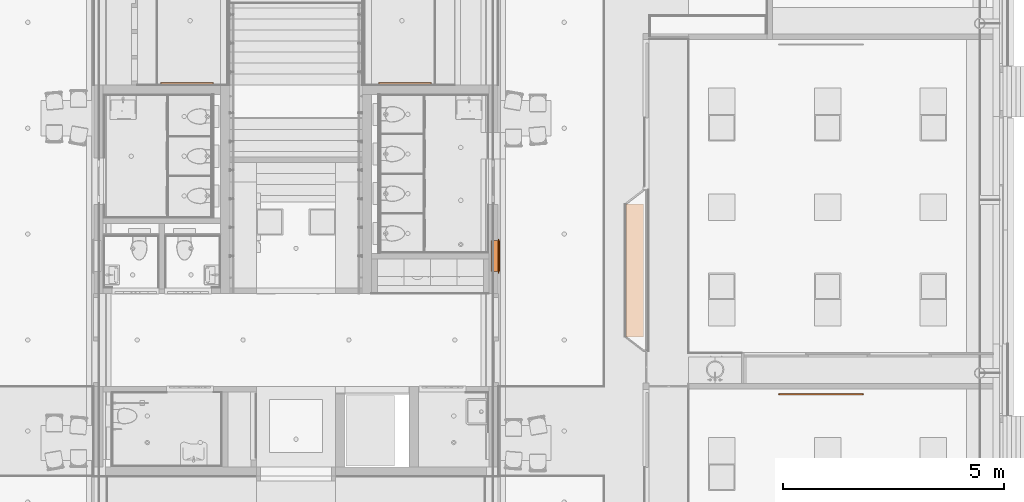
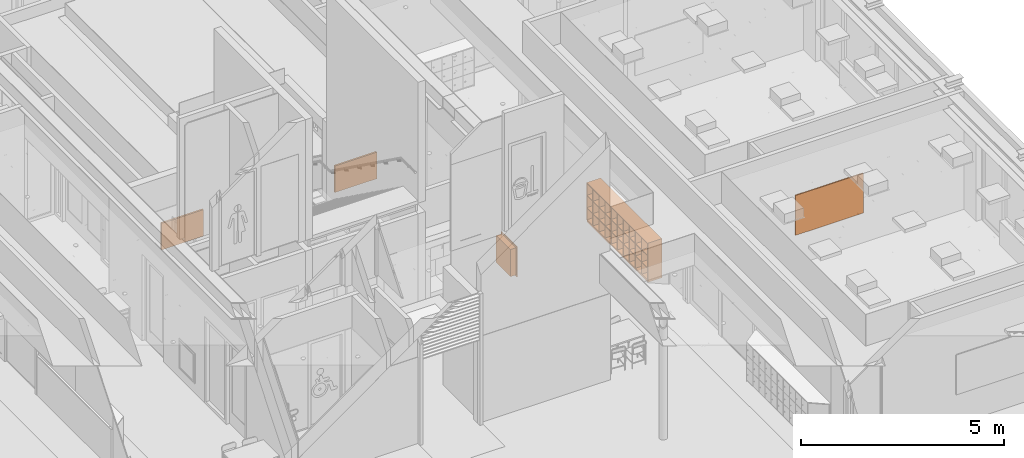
# One storey, part 334 of 347: 5 proxies.
"""IFC2X3 building model written with IfcOpenShell, lengths in millimetres."""

from ifc_helpers import new_model, entity, si_unit, converted_unit, derived_unit, money_unit, direction, frame, origin_with_axes, place, context, subcontext, project, spatial, open_shell, faceted_brep, surface_model, source, transform, mapped, type_object, type_shapes, element, save


model = new_model("IFC2X3")

# Units and contexts
model_context = context("Model", 3, precision=0.01, world=origin_with_axes(), true_north=direction((0.0, 1.0)))
plan_context = context("Plan", 3, precision=0.01, world=origin_with_axes(), true_north=direction((0.0, 1.0)))
body_context = subcontext(model_context, "Body", "Model", "MODEL_VIEW")
ifc_project = project(units=[si_unit("LENGTHUNIT", "METRE", prefix="MILLI"), si_unit("AREAUNIT", "SQUARE_METRE"), si_unit("VOLUMEUNIT", "CUBIC_METRE"), converted_unit("PLANEANGLEUNIT", "DEGREE", entity("IfcPlaneAngleMeasure", 0.0174532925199), si_unit("PLANEANGLEUNIT", "RADIAN"), dimensions=[0, 0, 0, 0, 0, 0, 0]), money_unit("EUR"), converted_unit("TIMEUNIT", "Year", entity("IfcTimeMeasure", 31556926.0), si_unit("TIMEUNIT", "SECOND"), dimensions=[0, 0, 1, 0, 0, 0, 0]), si_unit("MASSUNIT", "GRAM", prefix="KILO"), si_unit("THERMODYNAMICTEMPERATUREUNIT", "DEGREE_CELSIUS"), si_unit("LUMINOUSINTENSITYUNIT", "LUMEN"), si_unit("ENERGYUNIT", "JOULE", prefix="MEGA"), derived_unit("THERMALCONDUCTANCEUNIT", [(si_unit("POWERUNIT", "WATT"), 1), (si_unit("LENGTHUNIT", "METRE"), -1), (si_unit("THERMODYNAMICTEMPERATUREUNIT", "KELVIN"), -1)]), derived_unit("SPECIFICHEATCAPACITYUNIT", [(si_unit("ENERGYUNIT", "JOULE"), 1), (si_unit("MASSUNIT", "GRAM", prefix="KILO"), -1), (si_unit("THERMODYNAMICTEMPERATUREUNIT", "KELVIN"), -1)]), derived_unit("MASSDENSITYUNIT", [(si_unit("MASSUNIT", "GRAM", prefix="KILO"), 1), (si_unit("VOLUMEUNIT", "CUBIC_METRE"), -1)])], contexts=[model_context, plan_context])

# Site, building, storey
site_placement = place(None, origin_with_axes())
site = spatial("IfcSite", under=ifc_project, at=site_placement, Name="Site", CompositionType="ELEMENT")
building_placement = place(site_placement, origin_with_axes())
building = spatial("IfcBuilding", under=site, at=building_placement, Name="Naam gebouw", CompositionType="ELEMENT")
storey_placement = place(building_placement, origin_with_axes())
storey = spatial("IfcBuildingStorey", under=building, at=storey_placement, Name="begane grond", CompositionType="ELEMENT", Elevation=0.0)

# Proxies
building_element_proxy_type_1 = type_object("IfcBuildingElementProxyType", Name="Digitaal bord 25", PredefinedType="NOTDEFINED")
shared_shape_1 = source(origin_with_axes(), body_context, "Body", "SurfaceModel", [
    faceted_brep([(0.0, 0.0, 1000.0), (1930.0, 0.0, 1000.0), (1930.0, -30.0, 1000.0), (0.0, -30.0, 1000.0), (0.0, 0.0, 2185.0), (4.3933982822, 0.0, 2195.60660172), (15.0, 0.0, 2200.0), (1915.0, 0.0, 2200.0), (1925.60660172, 0.0, 2195.60660172), (1930.0, 0.0, 2185.0), (20.0, 0.0, 1025.0), (1910.0, 0.0, 1025.0), (1910.0, 0.0, 2180.0), (20.0, 0.0, 2180.0), (1930.0, -30.0, 2185.0), (1925.60660172, -30.0, 2195.60660172), (1915.0, -30.0, 2200.0), (15.0, -30.0, 2200.0), (4.3933982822, -30.0, 2195.60660172), (0.0, -30.0, 2185.0), (20.0, -30.0, 1025.0), (20.0, -30.0, 2180.0), (1910.0, -30.0, 2180.0), (1910.0, -30.0, 1025.0)], [[[0, 1, 2, 3]], [[0, 4, 5, 6, 7, 8, 9, 1], [10, 11, 12, 13]], [[1, 9, 14, 2]], [[3, 2, 14, 15, 16, 17, 18, 19], [20, 21, 22, 23]], [[4, 0, 3, 19]], [[5, 4, 19, 18]], [[6, 5, 18, 17]], [[7, 6, 17, 16]], [[8, 7, 16, 15]], [[9, 8, 15, 14]], [[11, 10, 20, 23]], [[12, 11, 23, 22]], [[13, 12, 22, 21]], [[10, 13, 21, 20]]]),
    faceted_brep([(20.0, 0.0, 1025.0), (1910.0, 0.0, 1025.0), (1910.0, -29.0, 1025.0), (20.0, -29.0, 1025.0), (20.0, 0.0, 2180.0), (1910.0, 0.0, 2180.0), (1910.0, -29.0, 2180.0), (20.0, -29.0, 2180.0)], [[[0, 1, 2, 3]], [[0, 4, 5, 1]], [[1, 5, 6, 2]], [[3, 2, 6, 7]], [[4, 0, 3, 7]], [[5, 4, 7, 6]]]),
    surface_model("IfcShellBasedSurfaceModel", [(20.0, -30.0, 1025.0), (1910.0, -30.0, 1025.0), (1910.0, -30.0, 2180.0), (20.0, -30.0, 2180.0)], [open_shell([[[0, 1, 2, 3]]])]),
])
proxy_1_placement = place(storey_placement, frame((51007.443853, 27812.5, 0.0), z_axis=(0.0, 0.0, 1.0), x_axis=(1.0, 0.0, 0.0)))
element("IfcBuildingElementProxy", 1, at=proxy_1_placement, inside=storey, type_object=building_element_proxy_type_1, Name="82_DiGi-bord", context=body_context, shape_type="MappedRepresentation", body=[
    mapped(shared_shape_1, transform((0.0, 0.0, 0.0))),
])
shared_shape_2 = source(origin_with_axes(), body_context, "Body", "Brep", [
    faceted_brep([(0.0, 0.0, 1000.0), (1200.0, 0.0, 1000.0), (1200.0, -50.0, 1000.0), (0.0, -50.0, 1000.0), (0.0, 0.0, 1785.0), (4.3933982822, 0.0, 1795.60660172), (15.0, 0.0, 1800.0), (1185.0, 0.0, 1800.0), (1195.60660172, 0.0, 1795.60660172), (1200.0, 0.0, 1785.0), (20.0, 0.0, 1025.0), (1180.0, 0.0, 1025.0), (1180.0, 0.0, 1780.0), (20.0, 0.0, 1780.0), (1200.0, -50.0, 1785.0), (1195.60660172, -50.0, 1795.60660172), (1185.0, -50.0, 1800.0), (15.0, -50.0, 1800.0), (4.3933982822, -50.0, 1795.60660172), (0.0, -50.0, 1785.0), (20.0, -50.0, 1025.0), (20.0, -50.0, 1780.0), (1180.0, -50.0, 1780.0), (1180.0, -50.0, 1025.0)], [[[0, 1, 2, 3]], [[0, 4, 5, 6, 7, 8, 9, 1], [10, 11, 12, 13]], [[1, 9, 14, 2]], [[3, 2, 14, 15, 16, 17, 18, 19], [20, 21, 22, 23]], [[4, 0, 3, 19]], [[5, 4, 19, 18]], [[6, 5, 18, 17]], [[7, 6, 17, 16]], [[8, 7, 16, 15]], [[9, 8, 15, 14]], [[11, 10, 20, 23]], [[12, 11, 23, 22]], [[13, 12, 22, 21]], [[10, 13, 21, 20]]]),
    faceted_brep([(20.0, 0.0, 1025.0), (1180.0, 0.0, 1025.0), (1180.0, -49.0, 1025.0), (20.0, -49.0, 1025.0), (20.0, 0.0, 1780.0), (1180.0, 0.0, 1780.0), (1180.0, -49.0, 1780.0), (20.0, -49.0, 1780.0)], [[[0, 1, 2, 3]], [[0, 4, 5, 1]], [[1, 5, 6, 2]], [[3, 2, 6, 7]], [[4, 0, 3, 7]], [[5, 4, 7, 6]]]),
])
type_shapes(building_element_proxy_type_1, [shared_shape_1, shared_shape_2])
for number, where, z_axis, x_axis, name in (
    (2, (38205.0, 34812.0, 200.0), (0.0, 0.0, 1.0), (-1.0, 0.0, 0.0), "82_DiGi-bord"),
    (3, (43145.0, 34812.0, 200.0), (0.0, 0.0, 1.0), (-1.0, 0.0, 0.0), "82_DiGi-bord"),
):
    element("IfcBuildingElementProxy", number, at=place(storey_placement, frame(where, z_axis=z_axis, x_axis=x_axis)), inside=storey, type_object=building_element_proxy_type_1, Name=name, context=body_context, shape_type="MappedRepresentation", body=[
        mapped(shared_shape_2, transform((0.0, 0.0, 0.0))),
    ])
building_element_proxy_type_2 = type_object("IfcBuildingElementProxyType", Name="Kast modulair 25", PredefinedType="NOTDEFINED")
shared_shape_3 = source(origin_with_axes(), body_context, "Body", "Brep", [
    faceted_brep([(0.0, 10.0, 0.0), (0.0, 10.0, 50.0), (-3018.0, 10.0, 50.0), (-3018.0, 10.0, 0.0), (0.0, 400.0, 0.0), (0.0, 400.0, 50.0), (-3018.0, 400.0, 50.0), (-3018.0, 400.0, 0.0)], [[[0, 1, 2, 3]], [[4, 5, 1, 0]], [[1, 5, 6, 2]], [[3, 2, 6, 7]], [[0, 3, 7, 4]], [[7, 6, 5, 4]]]),
    faceted_brep([(-18.0, 400.0, 68.0), (-18.0, 382.0, 68.0), (-3000.0, 382.0, 68.0), (-3000.0, 400.0, 68.0), (-18.0, 400.0, 1160.0), (-18.0, 382.0, 1160.0), (-3000.0, 382.0, 1160.0), (-3000.0, 382.0, 790.0), (-3000.0, 382.0, 420.0), (-3000.0, 400.0, 420.0), (-3000.0, 400.0, 790.0), (-3000.0, 400.0, 1160.0)], [[[0, 1, 2, 3]], [[4, 5, 1, 0]], [[1, 5, 6, 7, 8, 2]], [[3, 2, 8, 9]], [[0, 3, 9, 10, 11, 4]], [[11, 6, 5, 4]], [[10, 7, 6, 11]], [[9, 8, 7, 10]]]),
    faceted_brep([(-3018.0, 0.0, 50.0), (-3018.0, 400.0, 50.0), (0.0, 400.0, 50.0), (0.0, 0.0, 50.0), (-3018.0, 0.0, 68.0), (-3018.0, 400.0, 68.0), (0.0, 400.0, 68.0), (0.0, 0.0, 68.0)], [[[0, 1, 2, 3]], [[0, 4, 5, 1]], [[1, 5, 6, 2]], [[2, 6, 7, 3]], [[3, 7, 4, 0]], [[7, 6, 5, 4]]]),
    faceted_brep([(-18.0, 0.0, 68.0), (-18.0, 400.0, 68.0), (0.0, 400.0, 68.0), (0.0, 0.0, 68.0), (-18.0, 0.0, 420.0), (-18.0, 400.0, 420.0), (0.0, 400.0, 420.0), (0.0, 0.0, 420.0)], [[[0, 1, 2, 3]], [[0, 4, 5, 1]], [[1, 5, 6, 2]], [[2, 6, 7, 3]], [[3, 7, 4, 0]], [[7, 6, 5, 4]]]),
    faceted_brep([(-318.0, 0.0, 68.0), (-318.0, 382.0, 68.0), (-300.0, 382.0, 68.0), (-300.0, 0.0, 68.0), (-318.0, 0.0, 420.0), (-318.0, 382.0, 420.0), (-300.0, 382.0, 420.0), (-300.0, 0.0, 420.0)], [[[0, 1, 2, 3]], [[0, 4, 5, 1]], [[1, 5, 6, 2]], [[2, 6, 7, 3]], [[3, 7, 4, 0]], [[7, 6, 5, 4]]]),
    faceted_brep([(-618.0, 0.0, 68.0), (-618.0, 382.0, 68.0), (-600.0, 382.0, 68.0), (-600.0, 0.0, 68.0), (-618.0, 0.0, 420.0), (-618.0, 382.0, 420.0), (-600.0, 382.0, 420.0), (-600.0, 0.0, 420.0)], [[[0, 1, 2, 3]], [[0, 4, 5, 1]], [[1, 5, 6, 2]], [[2, 6, 7, 3]], [[3, 7, 4, 0]], [[7, 6, 5, 4]]]),
    faceted_brep([(-918.0, 0.0, 68.0), (-918.0, 382.0, 68.0), (-900.0, 382.0, 68.0), (-900.0, 0.0, 68.0), (-918.0, 0.0, 420.0), (-918.0, 382.0, 420.0), (-900.0, 382.0, 420.0), (-900.0, 0.0, 420.0)], [[[0, 1, 2, 3]], [[0, 4, 5, 1]], [[1, 5, 6, 2]], [[2, 6, 7, 3]], [[3, 7, 4, 0]], [[7, 6, 5, 4]]]),
    faceted_brep([(-1218.0, 0.0, 68.0), (-1218.0, 382.0, 68.0), (-1200.0, 382.0, 68.0), (-1200.0, 0.0, 68.0), (-1218.0, 0.0, 420.0), (-1218.0, 382.0, 420.0), (-1200.0, 382.0, 420.0), (-1200.0, 0.0, 420.0)], [[[0, 1, 2, 3]], [[0, 4, 5, 1]], [[1, 5, 6, 2]], [[2, 6, 7, 3]], [[3, 7, 4, 0]], [[7, 6, 5, 4]]]),
    faceted_brep([(-1518.0, 0.0, 68.0), (-1518.0, 382.0, 68.0), (-1500.0, 382.0, 68.0), (-1500.0, 0.0, 68.0), (-1518.0, 0.0, 420.0), (-1518.0, 382.0, 420.0), (-1500.0, 382.0, 420.0), (-1500.0, 0.0, 420.0)], [[[0, 1, 2, 3]], [[0, 4, 5, 1]], [[1, 5, 6, 2]], [[2, 6, 7, 3]], [[3, 7, 4, 0]], [[7, 6, 5, 4]]]),
    faceted_brep([(-1818.0, 0.0, 68.0), (-1818.0, 382.0, 68.0), (-1800.0, 382.0, 68.0), (-1800.0, 0.0, 68.0), (-1818.0, 0.0, 420.0), (-1818.0, 382.0, 420.0), (-1800.0, 382.0, 420.0), (-1800.0, 0.0, 420.0)], [[[0, 1, 2, 3]], [[0, 4, 5, 1]], [[1, 5, 6, 2]], [[2, 6, 7, 3]], [[3, 7, 4, 0]], [[7, 6, 5, 4]]]),
    faceted_brep([(-2118.0, 0.0, 68.0), (-2118.0, 382.0, 68.0), (-2100.0, 382.0, 68.0), (-2100.0, 0.0, 68.0), (-2118.0, 0.0, 420.0), (-2118.0, 382.0, 420.0), (-2100.0, 382.0, 420.0), (-2100.0, 0.0, 420.0)], [[[0, 1, 2, 3]], [[0, 4, 5, 1]], [[1, 5, 6, 2]], [[2, 6, 7, 3]], [[3, 7, 4, 0]], [[7, 6, 5, 4]]]),
    faceted_brep([(-2418.0, 0.0, 68.0), (-2418.0, 382.0, 68.0), (-2400.0, 382.0, 68.0), (-2400.0, 0.0, 68.0), (-2418.0, 0.0, 420.0), (-2418.0, 382.0, 420.0), (-2400.0, 382.0, 420.0), (-2400.0, 0.0, 420.0)], [[[0, 1, 2, 3]], [[0, 4, 5, 1]], [[1, 5, 6, 2]], [[2, 6, 7, 3]], [[3, 7, 4, 0]], [[7, 6, 5, 4]]]),
    faceted_brep([(-2718.0, 0.0, 68.0), (-2718.0, 382.0, 68.0), (-2700.0, 382.0, 68.0), (-2700.0, 0.0, 68.0), (-2718.0, 0.0, 420.0), (-2718.0, 382.0, 420.0), (-2700.0, 382.0, 420.0), (-2700.0, 0.0, 420.0)], [[[0, 1, 2, 3]], [[0, 4, 5, 1]], [[1, 5, 6, 2]], [[2, 6, 7, 3]], [[3, 7, 4, 0]], [[7, 6, 5, 4]]]),
    faceted_brep([(-3018.0, 0.0, 68.0), (-3018.0, 400.0, 68.0), (-3000.0, 400.0, 68.0), (-3000.0, 0.0, 68.0), (-3018.0, 0.0, 420.0), (-3018.0, 400.0, 420.0), (-3000.0, 400.0, 420.0), (-3000.0, 0.0, 420.0)], [[[0, 1, 2, 3]], [[0, 4, 5, 1]], [[1, 5, 6, 2]], [[2, 6, 7, 3]], [[3, 7, 4, 0]], [[7, 6, 5, 4]]]),
    faceted_brep([(-3000.0, 400.0, 420.0), (-3018.0, 400.0, 420.0), (-3018.0, 400.0, 438.0), (-3000.0, 400.0, 438.0), (-3000.0, 382.0, 420.0), (-18.0, 382.0, 420.0), (-18.0, 400.0, 420.0), (0.0, 400.0, 420.0), (0.0, 0.0, 420.0), (-3018.0, 0.0, 420.0), (-3018.0, 0.0, 438.0), (-18.0, 382.0, 438.0), (-3000.0, 382.0, 438.0), (0.0, 0.0, 438.0), (0.0, 400.0, 438.0), (-18.0, 400.0, 438.0)], [[[0, 1, 2, 3]], [[4, 5, 6, 7, 8, 9, 1, 0]], [[1, 9, 10, 2]], [[11, 12, 3, 2, 10, 13, 14, 15]], [[12, 4, 0, 3]], [[11, 5, 4, 12]], [[6, 5, 11, 15]], [[15, 14, 7, 6]], [[8, 7, 14, 13]], [[9, 8, 13, 10]]]),
    faceted_brep([(-3000.0, 400.0, 790.0), (-3018.0, 400.0, 790.0), (-3018.0, 400.0, 808.0), (-3000.0, 400.0, 808.0), (-3000.0, 382.0, 790.0), (-18.0, 382.0, 790.0), (-18.0, 400.0, 790.0), (0.0, 400.0, 790.0), (0.0, 0.0, 790.0), (-3018.0, 0.0, 790.0), (-3018.0, 0.0, 808.0), (-18.0, 382.0, 808.0), (-3000.0, 382.0, 808.0), (0.0, 0.0, 808.0), (0.0, 400.0, 808.0), (-18.0, 400.0, 808.0)], [[[0, 1, 2, 3]], [[4, 5, 6, 7, 8, 9, 1, 0]], [[1, 9, 10, 2]], [[11, 12, 3, 2, 10, 13, 14, 15]], [[12, 4, 0, 3]], [[11, 5, 4, 12]], [[6, 5, 11, 15]], [[15, 14, 7, 6]], [[8, 7, 14, 13]], [[9, 8, 13, 10]]]),
    faceted_brep([(-18.0, 0.0, 438.0), (-18.0, 400.0, 438.0), (0.0, 400.0, 438.0), (0.0, 0.0, 438.0), (-18.0, 0.0, 790.0), (-18.0, 400.0, 790.0), (0.0, 400.0, 790.0), (0.0, 0.0, 790.0)], [[[0, 1, 2, 3]], [[0, 4, 5, 1]], [[1, 5, 6, 2]], [[2, 6, 7, 3]], [[3, 7, 4, 0]], [[7, 6, 5, 4]]]),
    faceted_brep([(-318.0, 0.0, 438.0), (-318.0, 382.0, 438.0), (-300.0, 382.0, 438.0), (-300.0, 0.0, 438.0), (-318.0, 0.0, 790.0), (-318.0, 382.0, 790.0), (-300.0, 382.0, 790.0), (-300.0, 0.0, 790.0)], [[[0, 1, 2, 3]], [[0, 4, 5, 1]], [[1, 5, 6, 2]], [[2, 6, 7, 3]], [[3, 7, 4, 0]], [[7, 6, 5, 4]]]),
    faceted_brep([(-618.0, 0.0, 438.0), (-618.0, 382.0, 438.0), (-600.0, 382.0, 438.0), (-600.0, 0.0, 438.0), (-618.0, 0.0, 790.0), (-618.0, 382.0, 790.0), (-600.0, 382.0, 790.0), (-600.0, 0.0, 790.0)], [[[0, 1, 2, 3]], [[0, 4, 5, 1]], [[1, 5, 6, 2]], [[2, 6, 7, 3]], [[3, 7, 4, 0]], [[7, 6, 5, 4]]]),
    faceted_brep([(-918.0, 0.0, 438.0), (-918.0, 382.0, 438.0), (-900.0, 382.0, 438.0), (-900.0, 0.0, 438.0), (-918.0, 0.0, 790.0), (-918.0, 382.0, 790.0), (-900.0, 382.0, 790.0), (-900.0, 0.0, 790.0)], [[[0, 1, 2, 3]], [[0, 4, 5, 1]], [[1, 5, 6, 2]], [[2, 6, 7, 3]], [[3, 7, 4, 0]], [[7, 6, 5, 4]]]),
    faceted_brep([(-1218.0, 0.0, 438.0), (-1218.0, 382.0, 438.0), (-1200.0, 382.0, 438.0), (-1200.0, 0.0, 438.0), (-1218.0, 0.0, 790.0), (-1218.0, 382.0, 790.0), (-1200.0, 382.0, 790.0), (-1200.0, 0.0, 790.0)], [[[0, 1, 2, 3]], [[0, 4, 5, 1]], [[1, 5, 6, 2]], [[2, 6, 7, 3]], [[3, 7, 4, 0]], [[7, 6, 5, 4]]]),
    faceted_brep([(-1518.0, 0.0, 438.0), (-1518.0, 382.0, 438.0), (-1500.0, 382.0, 438.0), (-1500.0, 0.0, 438.0), (-1518.0, 0.0, 790.0), (-1518.0, 382.0, 790.0), (-1500.0, 382.0, 790.0), (-1500.0, 0.0, 790.0)], [[[0, 1, 2, 3]], [[0, 4, 5, 1]], [[1, 5, 6, 2]], [[2, 6, 7, 3]], [[3, 7, 4, 0]], [[7, 6, 5, 4]]]),
    faceted_brep([(-1818.0, 0.0, 438.0), (-1818.0, 382.0, 438.0), (-1800.0, 382.0, 438.0), (-1800.0, 0.0, 438.0), (-1818.0, 0.0, 790.0), (-1818.0, 382.0, 790.0), (-1800.0, 382.0, 790.0), (-1800.0, 0.0, 790.0)], [[[0, 1, 2, 3]], [[0, 4, 5, 1]], [[1, 5, 6, 2]], [[2, 6, 7, 3]], [[3, 7, 4, 0]], [[7, 6, 5, 4]]]),
    faceted_brep([(-2118.0, 0.0, 438.0), (-2118.0, 382.0, 438.0), (-2100.0, 382.0, 438.0), (-2100.0, 0.0, 438.0), (-2118.0, 0.0, 790.0), (-2118.0, 382.0, 790.0), (-2100.0, 382.0, 790.0), (-2100.0, 0.0, 790.0)], [[[0, 1, 2, 3]], [[0, 4, 5, 1]], [[1, 5, 6, 2]], [[2, 6, 7, 3]], [[3, 7, 4, 0]], [[7, 6, 5, 4]]]),
    faceted_brep([(-2418.0, 0.0, 438.0), (-2418.0, 382.0, 438.0), (-2400.0, 382.0, 438.0), (-2400.0, 0.0, 438.0), (-2418.0, 0.0, 790.0), (-2418.0, 382.0, 790.0), (-2400.0, 382.0, 790.0), (-2400.0, 0.0, 790.0)], [[[0, 1, 2, 3]], [[0, 4, 5, 1]], [[1, 5, 6, 2]], [[2, 6, 7, 3]], [[3, 7, 4, 0]], [[7, 6, 5, 4]]]),
    faceted_brep([(-2718.0, 0.0, 438.0), (-2718.0, 382.0, 438.0), (-2700.0, 382.0, 438.0), (-2700.0, 0.0, 438.0), (-2718.0, 0.0, 790.0), (-2718.0, 382.0, 790.0), (-2700.0, 382.0, 790.0), (-2700.0, 0.0, 790.0)], [[[0, 1, 2, 3]], [[0, 4, 5, 1]], [[1, 5, 6, 2]], [[2, 6, 7, 3]], [[3, 7, 4, 0]], [[7, 6, 5, 4]]]),
    faceted_brep([(-3018.0, 0.0, 438.0), (-3018.0, 400.0, 438.0), (-3000.0, 400.0, 438.0), (-3000.0, 0.0, 438.0), (-3018.0, 0.0, 790.0), (-3018.0, 400.0, 790.0), (-3000.0, 400.0, 790.0), (-3000.0, 0.0, 790.0)], [[[0, 1, 2, 3]], [[0, 4, 5, 1]], [[1, 5, 6, 2]], [[2, 6, 7, 3]], [[3, 7, 4, 0]], [[7, 6, 5, 4]]]),
    faceted_brep([(0.0, 0.0, 1160.0), (0.0, 0.0, 1178.0), (-3018.0, 0.0, 1178.0), (-3018.0, 0.0, 1160.0), (0.0, 400.0, 1160.0), (0.0, 400.0, 1178.0), (-3018.0, 400.0, 1178.0), (-3018.0, 400.0, 1160.0)], [[[0, 1, 2, 3]], [[4, 5, 1, 0]], [[1, 5, 6, 2]], [[3, 2, 6, 7]], [[0, 3, 7, 4]], [[7, 6, 5, 4]]]),
    faceted_brep([(-18.0, 0.0, 808.0), (-18.0, 400.0, 808.0), (0.0, 400.0, 808.0), (0.0, 0.0, 808.0), (-18.0, 0.0, 1160.0), (-18.0, 400.0, 1160.0), (0.0, 400.0, 1160.0), (0.0, 0.0, 1160.0)], [[[0, 1, 2, 3]], [[0, 4, 5, 1]], [[1, 5, 6, 2]], [[2, 6, 7, 3]], [[3, 7, 4, 0]], [[7, 6, 5, 4]]]),
    faceted_brep([(-318.0, 0.0, 808.0), (-318.0, 382.0, 808.0), (-300.0, 382.0, 808.0), (-300.0, 0.0, 808.0), (-318.0, 0.0, 1160.0), (-318.0, 382.0, 1160.0), (-300.0, 382.0, 1160.0), (-300.0, 0.0, 1160.0)], [[[0, 1, 2, 3]], [[0, 4, 5, 1]], [[1, 5, 6, 2]], [[2, 6, 7, 3]], [[3, 7, 4, 0]], [[7, 6, 5, 4]]]),
    faceted_brep([(-618.0, 0.0, 808.0), (-618.0, 382.0, 808.0), (-600.0, 382.0, 808.0), (-600.0, 0.0, 808.0), (-618.0, 0.0, 1160.0), (-618.0, 382.0, 1160.0), (-600.0, 382.0, 1160.0), (-600.0, 0.0, 1160.0)], [[[0, 1, 2, 3]], [[0, 4, 5, 1]], [[1, 5, 6, 2]], [[2, 6, 7, 3]], [[3, 7, 4, 0]], [[7, 6, 5, 4]]]),
    faceted_brep([(-918.0, 0.0, 808.0), (-918.0, 382.0, 808.0), (-900.0, 382.0, 808.0), (-900.0, 0.0, 808.0), (-918.0, 0.0, 1160.0), (-918.0, 382.0, 1160.0), (-900.0, 382.0, 1160.0), (-900.0, 0.0, 1160.0)], [[[0, 1, 2, 3]], [[0, 4, 5, 1]], [[1, 5, 6, 2]], [[2, 6, 7, 3]], [[3, 7, 4, 0]], [[7, 6, 5, 4]]]),
    faceted_brep([(-1218.0, 0.0, 808.0), (-1218.0, 382.0, 808.0), (-1200.0, 382.0, 808.0), (-1200.0, 0.0, 808.0), (-1218.0, 0.0, 1160.0), (-1218.0, 382.0, 1160.0), (-1200.0, 382.0, 1160.0), (-1200.0, 0.0, 1160.0)], [[[0, 1, 2, 3]], [[0, 4, 5, 1]], [[1, 5, 6, 2]], [[2, 6, 7, 3]], [[3, 7, 4, 0]], [[7, 6, 5, 4]]]),
    faceted_brep([(-1518.0, 0.0, 808.0), (-1518.0, 382.0, 808.0), (-1500.0, 382.0, 808.0), (-1500.0, 0.0, 808.0), (-1518.0, 0.0, 1160.0), (-1518.0, 382.0, 1160.0), (-1500.0, 382.0, 1160.0), (-1500.0, 0.0, 1160.0)], [[[0, 1, 2, 3]], [[0, 4, 5, 1]], [[1, 5, 6, 2]], [[2, 6, 7, 3]], [[3, 7, 4, 0]], [[7, 6, 5, 4]]]),
    faceted_brep([(-1818.0, 0.0, 808.0), (-1818.0, 382.0, 808.0), (-1800.0, 382.0, 808.0), (-1800.0, 0.0, 808.0), (-1818.0, 0.0, 1160.0), (-1818.0, 382.0, 1160.0), (-1800.0, 382.0, 1160.0), (-1800.0, 0.0, 1160.0)], [[[0, 1, 2, 3]], [[0, 4, 5, 1]], [[1, 5, 6, 2]], [[2, 6, 7, 3]], [[3, 7, 4, 0]], [[7, 6, 5, 4]]]),
    faceted_brep([(-2118.0, 0.0, 808.0), (-2118.0, 382.0, 808.0), (-2100.0, 382.0, 808.0), (-2100.0, 0.0, 808.0), (-2118.0, 0.0, 1160.0), (-2118.0, 382.0, 1160.0), (-2100.0, 382.0, 1160.0), (-2100.0, 0.0, 1160.0)], [[[0, 1, 2, 3]], [[0, 4, 5, 1]], [[1, 5, 6, 2]], [[2, 6, 7, 3]], [[3, 7, 4, 0]], [[7, 6, 5, 4]]]),
    faceted_brep([(-2418.0, 0.0, 808.0), (-2418.0, 382.0, 808.0), (-2400.0, 382.0, 808.0), (-2400.0, 0.0, 808.0), (-2418.0, 0.0, 1160.0), (-2418.0, 382.0, 1160.0), (-2400.0, 382.0, 1160.0), (-2400.0, 0.0, 1160.0)], [[[0, 1, 2, 3]], [[0, 4, 5, 1]], [[1, 5, 6, 2]], [[2, 6, 7, 3]], [[3, 7, 4, 0]], [[7, 6, 5, 4]]]),
    faceted_brep([(-2718.0, 0.0, 808.0), (-2718.0, 382.0, 808.0), (-2700.0, 382.0, 808.0), (-2700.0, 0.0, 808.0), (-2718.0, 0.0, 1160.0), (-2718.0, 382.0, 1160.0), (-2700.0, 382.0, 1160.0), (-2700.0, 0.0, 1160.0)], [[[0, 1, 2, 3]], [[0, 4, 5, 1]], [[1, 5, 6, 2]], [[2, 6, 7, 3]], [[3, 7, 4, 0]], [[7, 6, 5, 4]]]),
    faceted_brep([(-3018.0, 0.0, 808.0), (-3018.0, 400.0, 808.0), (-3000.0, 400.0, 808.0), (-3000.0, 0.0, 808.0), (-3018.0, 0.0, 1160.0), (-3018.0, 400.0, 1160.0), (-3000.0, 400.0, 1160.0), (-3000.0, 0.0, 1160.0)], [[[0, 1, 2, 3]], [[0, 4, 5, 1]], [[1, 5, 6, 2]], [[2, 6, 7, 3]], [[3, 7, 4, 0]], [[7, 6, 5, 4]]]),
])
type_shapes(building_element_proxy_type_2, [shared_shape_3])
proxy_2_placement = place(storey_placement, frame((47549.99788, 29090.5, 0.0), z_axis=(0.0, 0.0, 1.0), x_axis=(0.0, -1.0, 0.0)))
element("IfcBuildingElementProxy", 4, at=proxy_2_placement, inside=storey, type_object=building_element_proxy_type_2, Name="72_72 garderobe", context=body_context, shape_type="MappedRepresentation", body=[
    mapped(shared_shape_3, transform((0.0, 0.0, 0.0))),
])
building_element_proxy_type_3 = type_object("IfcBuildingElementProxyType", Name="Brandslang haspelkast 25", PredefinedType="NOTDEFINED")
shared_shape_4 = source(origin_with_axes(), body_context, "Body", "Brep", [
    faceted_brep([(0.0, 40.0, 0.0), (780.0, 40.0, 0.0), (780.0, 20.0, 0.0), (0.0, 20.0, 0.0), (0.0, 40.0, 900.0), (780.0, 40.0, 900.0), (60.0, 40.0, 60.0), (720.0, 40.0, 60.0), (720.0, 40.0, 840.0), (60.0, 40.0, 840.0), (780.0, 20.0, 900.0), (0.0, 20.0, 900.0), (60.0, 20.0, 60.0), (60.0, 20.0, 840.0), (720.0, 20.0, 840.0), (720.0, 20.0, 60.0)], [[[0, 1, 2, 3]], [[0, 4, 5, 1], [6, 7, 8, 9]], [[1, 5, 10, 2]], [[3, 2, 10, 11], [12, 13, 14, 15]], [[4, 0, 3, 11]], [[5, 4, 11, 10]], [[7, 6, 12, 15]], [[8, 7, 15, 14]], [[9, 8, 14, 13]], [[6, 9, 13, 12]]]),
    faceted_brep([(40.0, 20.0, 40.0), (740.0, 20.0, 40.0), (740.0, 0.0, 40.0), (40.0, 0.0, 40.0), (40.0, 20.0, 860.0), (740.0, 20.0, 860.0), (80.0, 20.0, 80.0), (700.0, 20.0, 80.0), (700.0, 20.0, 820.0), (80.0, 20.0, 820.0), (740.0, 0.0, 860.0), (40.0, 0.0, 860.0), (80.0, 0.0, 80.0), (80.0, 0.0, 820.0), (700.0, 0.0, 820.0), (700.0, 0.0, 80.0)], [[[0, 1, 2, 3]], [[0, 4, 5, 1], [6, 7, 8, 9]], [[1, 5, 10, 2]], [[3, 2, 10, 11], [12, 13, 14, 15]], [[4, 0, 3, 11]], [[5, 4, 11, 10]], [[7, 6, 12, 15]], [[8, 7, 15, 14]], [[9, 8, 14, 13]], [[6, 9, 13, 12]]]),
    faceted_brep([(40.0, 180.0, 40.0), (740.0, 180.0, 40.0), (740.0, 40.0, 40.0), (40.0, 40.0, 40.0), (40.0, 180.0, 860.0), (740.0, 180.0, 860.0), (60.0, 180.0, 60.0), (720.0, 180.0, 60.0), (720.0, 180.0, 840.0), (60.0, 180.0, 840.0), (740.0, 40.0, 860.0), (40.0, 40.0, 860.0), (60.0, 40.0, 60.0), (60.0, 40.0, 840.0), (720.0, 40.0, 840.0), (720.0, 40.0, 60.0)], [[[0, 1, 2, 3]], [[0, 4, 5, 1], [6, 7, 8, 9]], [[1, 5, 10, 2]], [[3, 2, 10, 11], [12, 13, 14, 15]], [[4, 0, 3, 11]], [[5, 4, 11, 10]], [[7, 6, 12, 15]], [[8, 7, 15, 14]], [[9, 8, 14, 13]], [[6, 9, 13, 12]]]),
    faceted_brep([(40.0, 200.0, 40.0), (740.0, 200.0, 40.0), (740.0, 180.0, 40.0), (40.0, 180.0, 40.0), (40.0, 200.0, 860.0), (740.0, 200.0, 860.0), (740.0, 180.0, 860.0), (40.0, 180.0, 860.0)], [[[0, 1, 2, 3]], [[0, 4, 5, 1]], [[1, 5, 6, 2]], [[3, 2, 6, 7]], [[4, 0, 3, 7]], [[5, 4, 7, 6]]]),
    faceted_brep([(80.0, 15.0, 80.0), (700.0, 15.0, 80.0), (700.0, 5.0, 80.0), (80.0, 5.0, 80.0), (80.0, 15.0, 820.0), (700.0, 15.0, 820.0), (700.0, 5.0, 820.0), (80.0, 5.0, 820.0)], [[[0, 1, 2, 3]], [[0, 4, 5, 1]], [[1, 5, 6, 2]], [[3, 2, 6, 7]], [[4, 0, 3, 7]], [[5, 4, 7, 6]]]),
    faceted_brep([(729.659258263, 0.0, 447.411809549), (728.660254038, 0.0, 445.0), (727.071067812, 0.0, 442.928932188), (725.0, 0.0, 441.339745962), (722.588190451, 0.0, 440.340741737), (720.0, 0.0, 440.0), (717.411809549, 0.0, 440.340741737), (715.0, 0.0, 441.339745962), (712.928932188, 0.0, 442.928932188), (711.339745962, 0.0, 445.0), (710.340741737, 0.0, 447.411809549), (710.0, 0.0, 450.0), (710.340741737, 0.0, 452.588190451), (711.339745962, 0.0, 455.0), (712.928932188, 0.0, 457.071067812), (715.0, 0.0, 458.660254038), (717.411809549, 0.0, 459.659258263), (720.0, 0.0, 460.0), (722.588190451, 0.0, 459.659258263), (725.0, 0.0, 458.660254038), (727.071067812, 0.0, 457.071067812), (728.660254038, 0.0, 455.0), (729.659258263, 0.0, 452.588190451), (730.0, 0.0, 450.0), (729.659258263, -2.0, 447.411809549), (728.660254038, -2.0, 445.0), (727.071067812, -2.0, 442.928932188), (725.0, -2.0, 441.339745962), (722.588190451, -2.0, 440.340741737), (720.0, -2.0, 440.0), (717.411809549, -2.0, 440.340741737), (715.0, -2.0, 441.339745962), (712.928932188, -2.0, 442.928932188), (711.339745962, -2.0, 445.0), (710.340741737, -2.0, 447.411809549), (710.0, -2.0, 450.0), (710.340741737, -2.0, 452.588190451), (711.339745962, -2.0, 455.0), (712.928932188, -2.0, 457.071067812), (715.0, -2.0, 458.660254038), (717.411809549, -2.0, 459.659258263), (720.0, -2.0, 460.0), (722.588190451, -2.0, 459.659258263), (725.0, -2.0, 458.660254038), (727.071067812, -2.0, 457.071067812), (728.660254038, -2.0, 455.0), (729.659258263, -2.0, 452.588190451), (730.0, -2.0, 450.0)], [[[0, 1, 2, 3, 4, 5, 6, 7, 8, 9, 10, 11, 12, 13, 14, 15, 16, 17, 18, 19, 20, 21, 22, 23]], [[1, 0, 24, 25]], [[2, 1, 25, 26]], [[3, 2, 26, 27]], [[4, 3, 27, 28]], [[5, 4, 28, 29]], [[6, 5, 29, 30]], [[7, 6, 30, 31]], [[8, 7, 31, 32]], [[9, 8, 32, 33]], [[10, 9, 33, 34]], [[11, 10, 34, 35]], [[12, 11, 35, 36]], [[13, 12, 36, 37]], [[14, 13, 37, 38]], [[15, 14, 38, 39]], [[16, 15, 39, 40]], [[17, 16, 40, 41]], [[18, 17, 41, 42]], [[19, 18, 42, 43]], [[20, 19, 43, 44]], [[21, 20, 44, 45]], [[22, 21, 45, 46]], [[23, 22, 46, 47]], [[0, 23, 47, 24]], [[24, 47, 46, 45, 44, 43, 42, 41, 40, 39, 38, 37, 36, 35, 34, 33, 32, 31, 30, 29, 28, 27, 26, 25]]]),
    faceted_brep([(39.8977774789, 16.2235428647, 80.0), (39.5980762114, 15.5, 80.0), (39.1213203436, 14.8786796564, 80.0), (38.5, 14.4019237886, 80.0), (37.7764571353, 14.1022225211, 80.0), (37.0, 14.0, 80.0), (36.2235428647, 14.1022225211, 80.0), (35.5, 14.4019237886, 80.0), (34.8786796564, 14.8786796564, 80.0), (34.4019237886, 15.5, 80.0), (34.1022225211, 16.2235428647, 80.0), (34.0, 17.0, 80.0), (34.1022225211, 17.7764571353, 80.0), (34.4019237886, 18.5, 80.0), (34.8786796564, 19.1213203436, 80.0), (35.5, 19.5980762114, 80.0), (36.2235428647, 19.8977774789, 80.0), (37.0, 20.0, 80.0), (37.7764571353, 19.8977774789, 80.0), (38.5, 19.5980762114, 80.0), (39.1213203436, 19.1213203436, 80.0), (39.5980762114, 18.5, 80.0), (39.8977774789, 17.7764571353, 80.0), (40.0, 17.0, 80.0), (39.8977774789, 16.2235428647, 120.0), (39.5980762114, 15.5, 120.0), (39.1213203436, 14.8786796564, 120.0), (38.5, 14.4019237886, 120.0), (37.7764571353, 14.1022225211, 120.0), (37.0, 14.0, 120.0), (36.2235428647, 14.1022225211, 120.0), (35.5, 14.4019237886, 120.0), (34.8786796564, 14.8786796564, 120.0), (34.4019237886, 15.5, 120.0), (34.1022225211, 16.2235428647, 120.0), (34.0, 17.0, 120.0), (34.1022225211, 17.7764571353, 120.0), (34.4019237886, 18.5, 120.0), (34.8786796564, 19.1213203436, 120.0), (35.5, 19.5980762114, 120.0), (36.2235428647, 19.8977774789, 120.0), (37.0, 20.0, 120.0), (37.7764571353, 19.8977774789, 120.0), (38.5, 19.5980762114, 120.0), (39.1213203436, 19.1213203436, 120.0), (39.5980762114, 18.5, 120.0), (39.8977774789, 17.7764571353, 120.0), (40.0, 17.0, 120.0)], [[[0, 1, 2, 3, 4, 5, 6, 7, 8, 9, 10, 11, 12, 13, 14, 15, 16, 17, 18, 19, 20, 21, 22, 23]], [[1, 0, 24, 25]], [[2, 1, 25, 26]], [[3, 2, 26, 27]], [[4, 3, 27, 28]], [[5, 4, 28, 29]], [[6, 5, 29, 30]], [[7, 6, 30, 31]], [[8, 7, 31, 32]], [[9, 8, 32, 33]], [[10, 9, 33, 34]], [[11, 10, 34, 35]], [[12, 11, 35, 36]], [[13, 12, 36, 37]], [[14, 13, 37, 38]], [[15, 14, 38, 39]], [[16, 15, 39, 40]], [[17, 16, 40, 41]], [[18, 17, 41, 42]], [[19, 18, 42, 43]], [[20, 19, 43, 44]], [[21, 20, 44, 45]], [[22, 21, 45, 46]], [[23, 22, 46, 47]], [[0, 23, 47, 24]], [[24, 47, 46, 45, 44, 43, 42, 41, 40, 39, 38, 37, 36, 35, 34, 33, 32, 31, 30, 29, 28, 27, 26, 25]]]),
    faceted_brep([(39.8977774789, 16.2235428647, 780.0), (39.5980762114, 15.5, 780.0), (39.1213203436, 14.8786796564, 780.0), (38.5, 14.4019237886, 780.0), (37.7764571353, 14.1022225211, 780.0), (37.0, 14.0, 780.0), (36.2235428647, 14.1022225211, 780.0), (35.5, 14.4019237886, 780.0), (34.8786796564, 14.8786796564, 780.0), (34.4019237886, 15.5, 780.0), (34.1022225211, 16.2235428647, 780.0), (34.0, 17.0, 780.0), (34.1022225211, 17.7764571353, 780.0), (34.4019237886, 18.5, 780.0), (34.8786796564, 19.1213203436, 780.0), (35.5, 19.5980762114, 780.0), (36.2235428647, 19.8977774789, 780.0), (37.0, 20.0, 780.0), (37.7764571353, 19.8977774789, 780.0), (38.5, 19.5980762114, 780.0), (39.1213203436, 19.1213203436, 780.0), (39.5980762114, 18.5, 780.0), (39.8977774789, 17.7764571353, 780.0), (40.0, 17.0, 780.0), (39.8977774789, 16.2235428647, 820.0), (39.5980762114, 15.5, 820.0), (39.1213203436, 14.8786796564, 820.0), (38.5, 14.4019237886, 820.0), (37.7764571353, 14.1022225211, 820.0), (37.0, 14.0, 820.0), (36.2235428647, 14.1022225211, 820.0), (35.5, 14.4019237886, 820.0), (34.8786796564, 14.8786796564, 820.0), (34.4019237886, 15.5, 820.0), (34.1022225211, 16.2235428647, 820.0), (34.0, 17.0, 820.0), (34.1022225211, 17.7764571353, 820.0), (34.4019237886, 18.5, 820.0), (34.8786796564, 19.1213203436, 820.0), (35.5, 19.5980762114, 820.0), (36.2235428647, 19.8977774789, 820.0), (37.0, 20.0, 820.0), (37.7764571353, 19.8977774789, 820.0), (38.5, 19.5980762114, 820.0), (39.1213203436, 19.1213203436, 820.0), (39.5980762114, 18.5, 820.0), (39.8977774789, 17.7764571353, 820.0), (40.0, 17.0, 820.0)], [[[0, 1, 2, 3, 4, 5, 6, 7, 8, 9, 10, 11, 12, 13, 14, 15, 16, 17, 18, 19, 20, 21, 22, 23]], [[1, 0, 24, 25]], [[2, 1, 25, 26]], [[3, 2, 26, 27]], [[4, 3, 27, 28]], [[5, 4, 28, 29]], [[6, 5, 29, 30]], [[7, 6, 30, 31]], [[8, 7, 31, 32]], [[9, 8, 32, 33]], [[10, 9, 33, 34]], [[11, 10, 34, 35]], [[12, 11, 35, 36]], [[13, 12, 36, 37]], [[14, 13, 37, 38]], [[15, 14, 38, 39]], [[16, 15, 39, 40]], [[17, 16, 40, 41]], [[18, 17, 41, 42]], [[19, 18, 42, 43]], [[20, 19, 43, 44]], [[21, 20, 44, 45]], [[22, 21, 45, 46]], [[23, 22, 46, 47]], [[0, 23, 47, 24]], [[24, 47, 46, 45, 44, 43, 42, 41, 40, 39, 38, 37, 36, 35, 34, 33, 32, 31, 30, 29, 28, 27, 26, 25]]]),
])
type_shapes(building_element_proxy_type_3, [shared_shape_4])
proxy_3_placement = place(storey_placement, frame((44695.0001489, 30534.9998623, 300.0), z_axis=(0.0, 0.0, 1.0), x_axis=(0.0, 1.0, 0.0)))
element("IfcBuildingElementProxy", 5, at=proxy_3_placement, inside=storey, type_object=building_element_proxy_type_3, Name="65_Object-x", context=body_context, shape_type="MappedRepresentation", body=[
    mapped(shared_shape_4, transform((0.0, 0.0, 0.0))),
])

save(model, "model.ifc")
